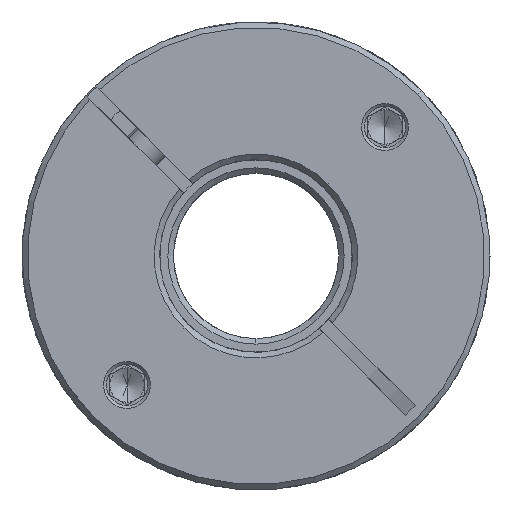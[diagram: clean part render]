
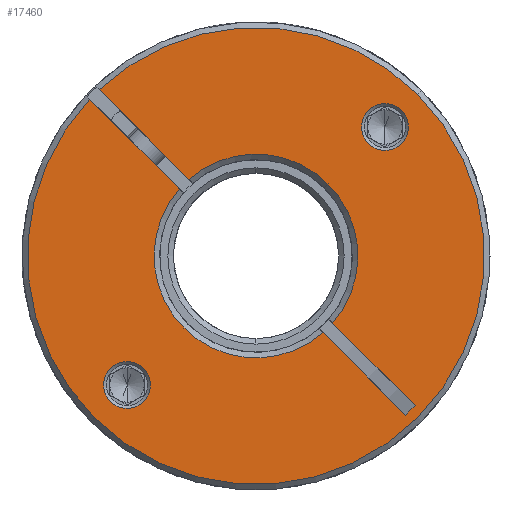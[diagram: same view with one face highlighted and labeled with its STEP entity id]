
A CAD part, front view. The second image highlights one B-rep face of the part: STEP entity #17460.
In plain terms, the highlighted planar face has unit normal (0, -1, 0).
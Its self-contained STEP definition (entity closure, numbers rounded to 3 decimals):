
#143 = DIRECTION ( 'NONE',  ( 0.707, 0., -0.707 ) ) ;
#325 = ORIENTED_EDGE ( 'NONE', *, *, #11726, .T. ) ;
#363 = AXIS2_PLACEMENT_3D ( 'NONE', #18798, #602, #20354 ) ;
#417 = DIRECTION ( 'NONE',  ( 0.707, 0., 0.707 ) ) ;
#440 = EDGE_LOOP ( 'NONE', ( #20577, #2608 ) ) ;
#499 = FACE_BOUND ( 'NONE', #440, .T. ) ;
#517 = CARTESIAN_POINT ( 'NONE',  ( 13.599, -67.045, 84.334 ) ) ;
#602 = DIRECTION ( 'NONE',  ( 0., -1., 0. ) ) ;
#901 = VECTOR ( 'NONE', #1108, 1000. ) ;
#917 = CARTESIAN_POINT ( 'NONE',  ( 18.988, -67.045, 44.862 ) ) ;
#1108 = DIRECTION ( 'NONE',  ( 0.707, 0., -0.707 ) ) ;
#1140 = CARTESIAN_POINT ( 'NONE',  ( -2.735, -67.045, 68. ) ) ;
#1218 = EDGE_CURVE ( 'NONE', #12218, #1428, #8055, .T. ) ;
#1338 = VERTEX_POINT ( 'NONE', #11052 ) ;
#1395 = LINE ( 'NONE', #12385, #901 ) ;
#1428 = VERTEX_POINT ( 'NONE', #11119 ) ;
#1751 = DIRECTION ( 'NONE',  ( 0., 1., 0. ) ) ;
#2012 = CARTESIAN_POINT ( 'NONE',  ( -21.473, -67.045, 49.262 ) ) ;
#2216 = CIRCLE ( 'NONE', #7520, 33.2 ) ;
#2320 = PLANE ( 'NONE',  #363 ) ;
#2425 = CARTESIAN_POINT ( 'NONE',  ( 20.741, -67.045, 91.476 ) ) ;
#2549 = DIRECTION ( 'NONE',  ( 0.707, 0., 0.707 ) ) ;
#2608 = ORIENTED_EDGE ( 'NONE', *, *, #17843, .T. ) ;
#2885 = ORIENTED_EDGE ( 'NONE', *, *, #16348, .F. ) ;
#3214 = CIRCLE ( 'NONE', #11025, 3.4 ) ;
#3507 = ORIENTED_EDGE ( 'NONE', *, *, #4984, .T. ) ;
#3630 = EDGE_CURVE ( 'NONE', #12013, #11459, #17457, .T. ) ;
#3702 = AXIS2_PLACEMENT_3D ( 'NONE', #5749, #9130, #15729 ) ;
#4041 = LINE ( 'NONE', #8350, #15606 ) ;
#4134 = VECTOR ( 'NONE', #17269, 1000. ) ;
#4171 = DIRECTION ( 'NONE',  ( 0.707, 0., 0.707 ) ) ;
#4452 = EDGE_CURVE ( 'NONE', #13676, #1338, #14042, .T. ) ;
#4841 = VECTOR ( 'NONE', #9256, 1000. ) ;
#4984 = EDGE_CURVE ( 'NONE', #8807, #12013, #2216, .T. ) ;
#5239 = AXIS2_PLACEMENT_3D ( 'NONE', #15639, #20494, #12217 ) ;
#5749 = CARTESIAN_POINT ( 'NONE',  ( -2.735, -67.045, 68. ) ) ;
#5937 = AXIS2_PLACEMENT_3D ( 'NONE', #7346, #12547, #4171 ) ;
#5961 = EDGE_CURVE ( 'NONE', #10466, #8807, #12987, .T. ) ;
#6250 = CARTESIAN_POINT ( 'NONE',  ( -2.735, -67.045, 68. ) ) ;
#6344 = CARTESIAN_POINT ( 'NONE',  ( 7.73, -67.045, 78.465 ) ) ;
#6403 = ORIENTED_EDGE ( 'NONE', *, *, #3630, .T. ) ;
#6777 = VERTEX_POINT ( 'NONE', #517 ) ;
#6907 = CARTESIAN_POINT ( 'NONE',  ( 16.003, -67.045, 86.738 ) ) ;
#7216 = AXIS2_PLACEMENT_3D ( 'NONE', #18649, #13965, #2549 ) ;
#7346 = CARTESIAN_POINT ( 'NONE',  ( -2.735, -67.045, 68. ) ) ;
#7481 = FACE_OUTER_BOUND ( 'NONE', #8635, .T. ) ;
#7520 = AXIS2_PLACEMENT_3D ( 'NONE', #6250, #11157, #17886 ) ;
#7539 = DIRECTION ( 'NONE',  ( 0.707, 0., 0.707 ) ) ;
#7608 = CARTESIAN_POINT ( 'NONE',  ( -3.442, -67.045, 67.293 ) ) ;
#7757 = CARTESIAN_POINT ( 'NONE',  ( -2.028, -67.045, 68.707 ) ) ;
#8003 = ORIENTED_EDGE ( 'NONE', *, *, #19289, .T. ) ;
#8055 = CIRCLE ( 'NONE', #5937, 14.8 ) ;
#8350 = CARTESIAN_POINT ( 'NONE',  ( -2.028, -67.045, 68.707 ) ) ;
#8635 = EDGE_LOOP ( 'NONE', ( #2885, #14353, #3507, #6403, #325, #14859, #8003, #20049, #18667, #15126, #18702 ) ) ;
#8795 = CARTESIAN_POINT ( 'NONE',  ( -12.469, -67.045, 79.148 ) ) ;
#8807 = VERTEX_POINT ( 'NONE', #18356 ) ;
#9130 = DIRECTION ( 'NONE',  ( 0., -1., 0. ) ) ;
#9217 = LINE ( 'NONE', #7757, #4841 ) ;
#9256 = DIRECTION ( 'NONE',  ( 0.707, 0., -0.707 ) ) ;
#9824 = AXIS2_PLACEMENT_3D ( 'NONE', #1140, #21149, #19445 ) ;
#10466 = VERTEX_POINT ( 'NONE', #16360 ) ;
#11019 = VERTEX_POINT ( 'NONE', #12872 ) ;
#11025 = AXIS2_PLACEMENT_3D ( 'NONE', #14044, #17312, #7539 ) ;
#11052 = CARTESIAN_POINT ( 'NONE',  ( -19.069, -67.045, 51.666 ) ) ;
#11119 = CARTESIAN_POINT ( 'NONE',  ( -13.883, -67.045, 77.734 ) ) ;
#11129 = CARTESIAN_POINT ( 'NONE',  ( 18.988, -67.045, 44.862 ) ) ;
#11157 = DIRECTION ( 'NONE',  ( 0., -1., 0. ) ) ;
#11342 = EDGE_CURVE ( 'NONE', #11019, #17427, #9217, .T. ) ;
#11451 = VERTEX_POINT ( 'NONE', #8795 ) ;
#11459 = VERTEX_POINT ( 'NONE', #15247 ) ;
#11726 = EDGE_CURVE ( 'NONE', #11459, #11451, #4041, .T. ) ;
#11732 = DIRECTION ( 'NONE',  ( 0., 1., 0. ) ) ;
#12013 = VERTEX_POINT ( 'NONE', #2425 ) ;
#12217 = DIRECTION ( 'NONE',  ( 0.707, 0., 0.707 ) ) ;
#12218 = VERTEX_POINT ( 'NONE', #13189 ) ;
#12312 = VERTEX_POINT ( 'NONE', #16868 ) ;
#12385 = CARTESIAN_POINT ( 'NONE',  ( -3.442, -67.045, 67.293 ) ) ;
#12402 = EDGE_CURVE ( 'NONE', #11451, #16799, #20040, .T. ) ;
#12497 = ORIENTED_EDGE ( 'NONE', *, *, #4452, .T. ) ;
#12547 = DIRECTION ( 'NONE',  ( 0., 1., 0. ) ) ;
#12872 = CARTESIAN_POINT ( 'NONE',  ( 8.413, -67.045, 58.266 ) ) ;
#12987 = CIRCLE ( 'NONE', #3702, 33.2 ) ;
#13189 = CARTESIAN_POINT ( 'NONE',  ( 6.999, -67.045, 56.852 ) ) ;
#13640 = LINE ( 'NONE', #7608, #20150 ) ;
#13676 = VERTEX_POINT ( 'NONE', #13836 ) ;
#13836 = CARTESIAN_POINT ( 'NONE',  ( -23.878, -67.045, 46.858 ) ) ;
#13893 = EDGE_CURVE ( 'NONE', #12218, #19872, #1395, .T. ) ;
#13899 = LINE ( 'NONE', #917, #4134 ) ;
#13917 = EDGE_CURVE ( 'NONE', #12312, #6777, #3214, .T. ) ;
#13965 = DIRECTION ( 'NONE',  ( 0., 1., 0. ) ) ;
#13974 = DIRECTION ( 'NONE',  ( 0.707, 0., -0.707 ) ) ;
#14042 = CIRCLE ( 'NONE', #15235, 3.4 ) ;
#14044 = CARTESIAN_POINT ( 'NONE',  ( 16.003, -67.045, 86.738 ) ) ;
#14115 = CIRCLE ( 'NONE', #21404, 3.4 ) ;
#14135 = AXIS2_PLACEMENT_3D ( 'NONE', #16250, #1751, #417 ) ;
#14353 = ORIENTED_EDGE ( 'NONE', *, *, #5961, .T. ) ;
#14859 = ORIENTED_EDGE ( 'NONE', *, *, #12402, .T. ) ;
#15126 = ORIENTED_EDGE ( 'NONE', *, *, #13893, .F. ) ;
#15200 = DIRECTION ( 'NONE',  ( 0., 1., 0. ) ) ;
#15235 = AXIS2_PLACEMENT_3D ( 'NONE', #2012, #15200, #18639 ) ;
#15247 = CARTESIAN_POINT ( 'NONE',  ( -25.493, -67.045, 92.172 ) ) ;
#15606 = VECTOR ( 'NONE', #143, 1000. ) ;
#15639 = CARTESIAN_POINT ( 'NONE',  ( -2.735, -67.045, 68. ) ) ;
#15729 = DIRECTION ( 'NONE',  ( 0.707, 0., 0.707 ) ) ;
#16250 = CARTESIAN_POINT ( 'NONE',  ( -21.473, -67.045, 49.262 ) ) ;
#16348 = EDGE_CURVE ( 'NONE', #10466, #1428, #13640, .T. ) ;
#16360 = CARTESIAN_POINT ( 'NONE',  ( -26.908, -67.045, 90.758 ) ) ;
#16799 = VERTEX_POINT ( 'NONE', #6344 ) ;
#16868 = CARTESIAN_POINT ( 'NONE',  ( 18.407, -67.045, 89.142 ) ) ;
#16879 = EDGE_CURVE ( 'NONE', #1338, #13676, #20667, .T. ) ;
#17045 = EDGE_CURVE ( 'NONE', #17427, #19872, #13899, .T. ) ;
#17269 = DIRECTION ( 'NONE',  ( -0.707, 0., -0.707 ) ) ;
#17312 = DIRECTION ( 'NONE',  ( 0., 1., 0. ) ) ;
#17427 = VERTEX_POINT ( 'NONE', #18564 ) ;
#17457 = CIRCLE ( 'NONE', #9824, 33.2 ) ;
#17460 = ADVANCED_FACE ( 'NONE', ( #499, #20106, #7481 ), #2320, .T. ) ;
#17664 = ORIENTED_EDGE ( 'NONE', *, *, #16879, .T. ) ;
#17843 = EDGE_CURVE ( 'NONE', #6777, #12312, #14115, .T. ) ;
#17886 = DIRECTION ( 'NONE',  ( 0.707, 0., 0.707 ) ) ;
#18356 = CARTESIAN_POINT ( 'NONE',  ( -26.211, -67.045, 44.524 ) ) ;
#18394 = DIRECTION ( 'NONE',  ( 0.707, 0., 0.707 ) ) ;
#18564 = CARTESIAN_POINT ( 'NONE',  ( 20.402, -67.045, 46.277 ) ) ;
#18639 = DIRECTION ( 'NONE',  ( 0.707, 0., 0.707 ) ) ;
#18649 = CARTESIAN_POINT ( 'NONE',  ( -2.735, -67.045, 68. ) ) ;
#18667 = ORIENTED_EDGE ( 'NONE', *, *, #17045, .T. ) ;
#18702 = ORIENTED_EDGE ( 'NONE', *, *, #1218, .T. ) ;
#18798 = CARTESIAN_POINT ( 'NONE',  ( -2.735, -67.045, 68. ) ) ;
#19289 = EDGE_CURVE ( 'NONE', #16799, #11019, #20878, .T. ) ;
#19445 = DIRECTION ( 'NONE',  ( 0.707, 0., 0.707 ) ) ;
#19872 = VERTEX_POINT ( 'NONE', #11129 ) ;
#20040 = CIRCLE ( 'NONE', #7216, 14.8 ) ;
#20049 = ORIENTED_EDGE ( 'NONE', *, *, #11342, .T. ) ;
#20106 = FACE_BOUND ( 'NONE', #20375, .T. ) ;
#20150 = VECTOR ( 'NONE', #13974, 1000. ) ;
#20354 = DIRECTION ( 'NONE',  ( 0.707, 0., 0.707 ) ) ;
#20375 = EDGE_LOOP ( 'NONE', ( #17664, #12497 ) ) ;
#20494 = DIRECTION ( 'NONE',  ( 0., 1., 0. ) ) ;
#20577 = ORIENTED_EDGE ( 'NONE', *, *, #13917, .T. ) ;
#20667 = CIRCLE ( 'NONE', #14135, 3.4 ) ;
#20878 = CIRCLE ( 'NONE', #5239, 14.8 ) ;
#21149 = DIRECTION ( 'NONE',  ( 0., -1., 0. ) ) ;
#21404 = AXIS2_PLACEMENT_3D ( 'NONE', #6907, #11732, #18394 ) ;
